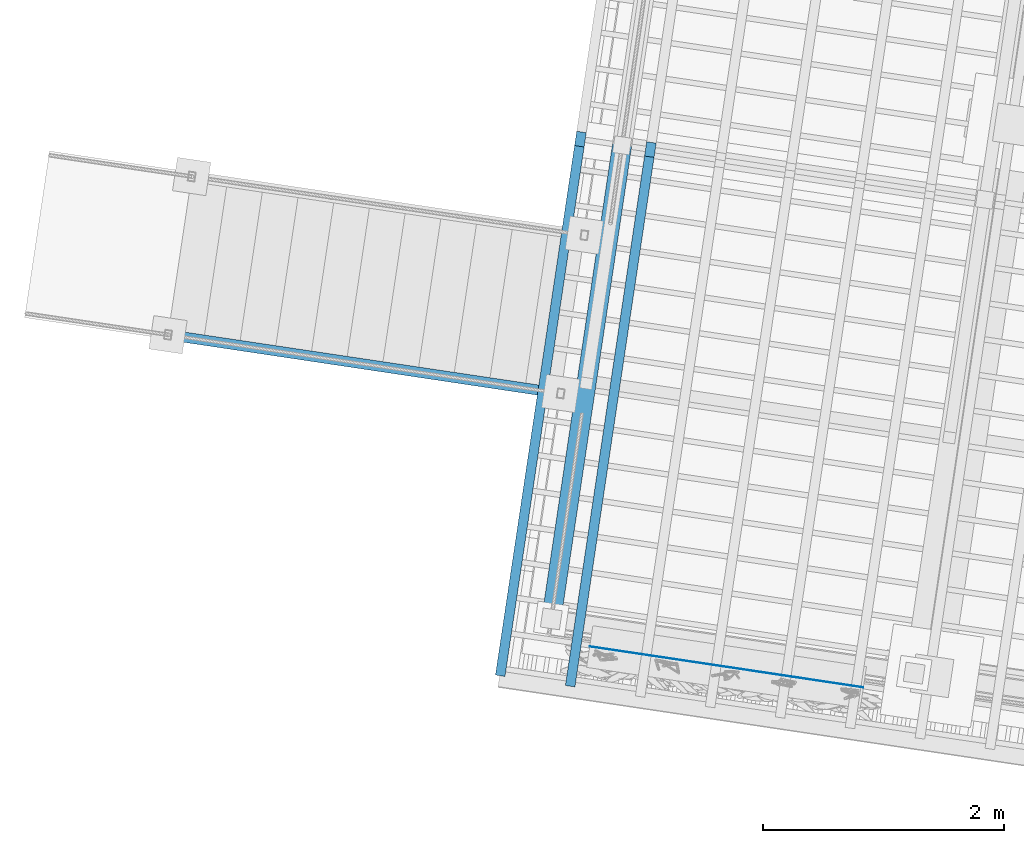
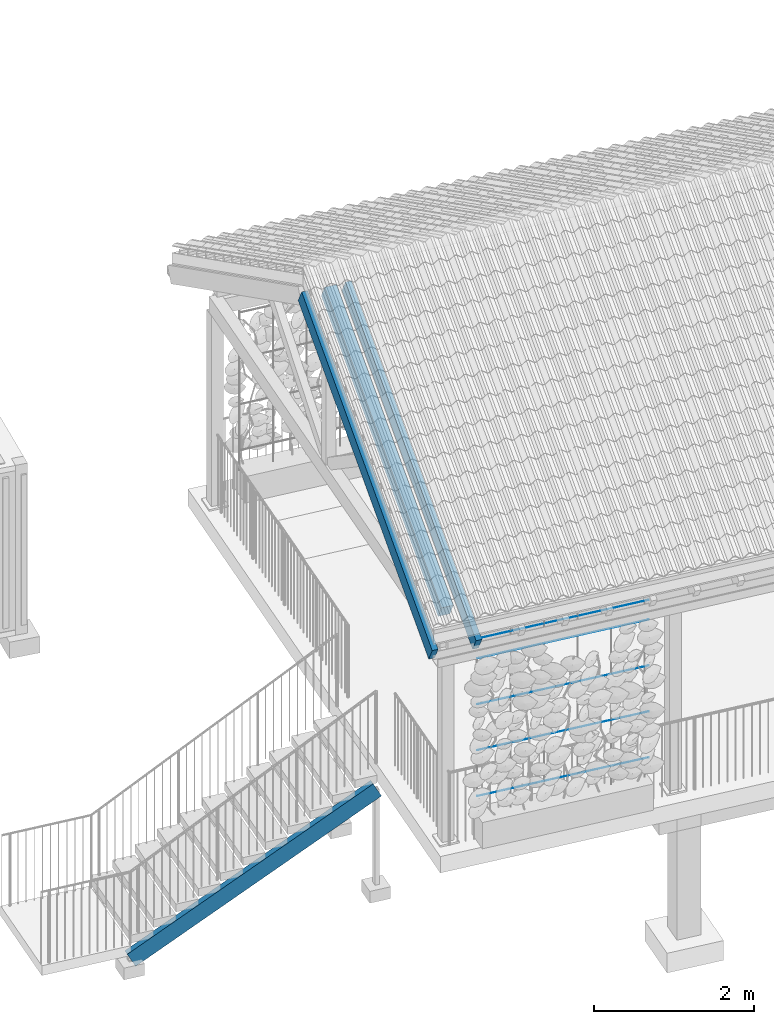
# One storey, part 9 of 131: 9 members, 3 elements without a shape of their own.
"""IFC4 building model written with IfcOpenShell, lengths in metres."""

from ifc_helpers import new_model, si_unit, direction, frame, origin_with_axes, place, context, subcontext, project, spatial, polyline, rectangle, circle, outline, extrude, material, material_profile, profile_set, profile_usage, type_object, element, aggregate, save


model = new_model("IFC4")

# Units and contexts
model_context = context("Model", 3, precision=1e-05, world=origin_with_axes(), true_north=direction((0.0, 1.0)))
body_context = subcontext(model_context, "Body", "Model", "MODEL_VIEW")
ifc_project = project(units=[si_unit("VOLUMEUNIT", "CUBIC_METRE"), si_unit("LENGTHUNIT", "METRE"), si_unit("AREAUNIT", "SQUARE_METRE")], contexts=[model_context])

# Site, building, storey
site_placement = place(None, origin_with_axes())
site = spatial("IfcSite", under=ifc_project, at=site_placement, Name="Lares · Rua das Mercês · artigo 4771")
building_placement = place(site_placement, frame((15.0, 9.7, 14.65), z_axis=(0.0, 0.0, 1.0), x_axis=(0.989015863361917, -0.147809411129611, 0.0)))
building = spatial("IfcBuilding", under=site, at=building_placement, Name="Casa Sobreposta")
storey_placement = place(building_placement, origin_with_axes())
storey = spatial("IfcBuildingStorey", under=building, at=storey_placement, Name="00 · Habitação e estacionamento", Elevation=14.65)

# Roof, members
ifc_material_1 = material(Name="Madeira / Bauholz", Category="wood")
roof_placement = place(storey_placement, origin_with_axes())
roof = element("IfcRoof", 1, at=roof_placement, inside=storey, material=ifc_material_1, Name="Cobertura de telha · duas águas 30 graus", PredefinedType="GABLE_ROOF")
ifc_material_profile_1 = material_profile(ifc_material_1, rectangle(XDim=0.16, YDim=0.24))
ifc_profile_set_1 = profile_set([ifc_material_profile_1], Name="TIMBER0.160x0.240")
ifc_profile_usage_1 = profile_usage(ifc_profile_set_1)
member_type_1 = type_object("IfcMemberType", Name="TIMBER0.160x0.240 / timber", PredefinedType="NOTDEFINED", material=ifc_profile_set_1)
member_1_placement = place(roof_placement, frame((-6.05, -1.43, 3.44635462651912), z_axis=(0.0, 0.866025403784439, 0.5), x_axis=(1.0, 0.0, 0.0)))
member_1 = element("IfcMember", 2, at=member_1_placement, type_object=member_type_1, material=ifc_profile_usage_1, Name="Tesoura · perna", context=body_context, shape_type="SweptSolid", body=[
    extrude(rectangle(XDim=0.16, YDim=0.24), origin_with_axes(), (0.0, 0.0, 1.0), 4.59570814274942),
])
ifc_material_profile_2 = material_profile(ifc_material_1, rectangle(XDim=0.08, YDim=0.24))
ifc_profile_set_2 = profile_set([ifc_material_profile_2], Name="TIMBER0.080x0.240")
ifc_profile_usage_2 = profile_usage(ifc_profile_set_2)
member_type_2 = type_object("IfcMemberType", Name="TIMBER0.080x0.240 / timber", PredefinedType="NOTDEFINED", material=ifc_profile_set_2)
member_2_placement = place(roof_placement, frame((-6.4, -1.9, 3.181), z_axis=(0.0, 0.866025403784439, 0.5), x_axis=(1.0, 0.0, 0.0)))
member_2 = element("IfcMember", 3, at=member_2_placement, type_object=member_type_2, material=ifc_profile_usage_2, Name="Cobertura · caibro", context=body_context, shape_type="SweptSolid", body=[
    extrude(rectangle(XDim=0.08, YDim=0.24), origin_with_axes(), (0.0, 0.0, 1.0), 5.13841739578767),
])
ifc_profile_usage_3 = profile_usage(ifc_profile_set_2)
member_3_placement = place(roof_placement, frame((-5.81212121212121, -1.9, 3.181), z_axis=(0.0, 0.866025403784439, 0.5), x_axis=(1.0, 0.0, 0.0)))
member_3 = element("IfcMember", 4, at=member_3_placement, type_object=member_type_2, material=ifc_profile_usage_3, Name="Cobertura · caibro", context=body_context, shape_type="SweptSolid", body=[
    extrude(rectangle(XDim=0.08, YDim=0.24), origin_with_axes(), (0.0, 0.0, 1.0), 5.13841739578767),
])
aggregate(roof, [member_1, member_2, member_3])

# Stair, member
stair_placement = place(storey_placement, origin_with_axes())
stair = element("IfcStair", 5, at=stair_placement, inside=storey, Name="Jardim · escada pela fachada poente", PredefinedType="STRAIGHT_RUN_STAIR")
ifc_material_2 = material(Name="Aço pintado / Stahl lackiert", Category="steel")
ifc_material_profile_3 = material_profile(ifc_material_2, outline(polyline([(-0.0425, -0.12), (0.0425, -0.12), (0.0425, -0.1102), (-0.0325, -0.1102), (-0.0325, 0.1102), (0.0425, 0.1102), (0.0425, 0.12), (-0.0425, 0.12), (-0.0425, -0.12)])))
ifc_profile_set_3 = profile_set([ifc_material_profile_3], Name="C240")
ifc_profile_usage_4 = profile_usage(ifc_profile_set_3)
member_type_3 = type_object("IfcMemberType", Name="C240 / steel", PredefinedType="NOTDEFINED", material=ifc_profile_set_3)
member_4_placement = place(stair_placement, frame((-6.25, 0.435, -0.419166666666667), z_axis=(-0.883369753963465, 0.0, -0.468676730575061), x_axis=(0.0, 1.0, 0.0)))
member_4 = element("IfcMember", 6, at=member_4_placement, type_object=member_type_3, material=ifc_profile_usage_4, Name="Jardim · longarina poente", context=body_context, shape_type="SweptSolid", body=[
    extrude(outline(polyline([(-0.0425, -0.12), (0.0425, -0.12), (0.0425, -0.1102), (-0.0325, -0.1102), (-0.0325, 0.1102), (0.0425, 0.1102), (0.0425, 0.12), (-0.0425, 0.12), (-0.0425, -0.12)])), origin_with_axes(), (0.0, 0.0, 1.0), 3.73569503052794),
])
aggregate(stair, [member_4])

# Assembly, members
assembly_placement = place(storey_placement, origin_with_axes())
assembly = element("IfcElementAssembly", 7, at=assembly_placement, inside=storey, Name="Fachada sul e pátio · estrutura e trepadeiras", ObjectType="LIVING_SHADE_TRELLIS", PredefinedType="USERDEFINED")
ifc_material_3 = material(Name="Aço galvanizado / Stahl verzinkt", Category="steel")
ifc_material_profile_4 = material_profile(ifc_material_3, circle(Radius=0.002))
ifc_profile_set_4 = profile_set([ifc_material_profile_4], Name="D0.004")
ifc_profile_usage_5 = profile_usage(ifc_profile_set_4)
member_type_4 = type_object("IfcMemberType", Name="D0.004 / galvanized", PredefinedType="NOTDEFINED", material=ifc_profile_set_4)
member_5_placement = place(assembly_placement, frame((-5.7, -1.61, 0.65), z_axis=(1.0, 0.0, 0.0), x_axis=(0.0, -1.0, 0.0)))
member_5 = element("IfcMember", 8, at=member_5_placement, type_object=member_type_4, material=ifc_profile_usage_5, Name="Trepadeiras · fio horizontal", context=body_context, shape_type="SweptSolid", body=[
    extrude(circle(Radius=0.002), origin_with_axes(), (0.0, 0.0, 1.0), 2.3),
])
ifc_profile_usage_6 = profile_usage(ifc_profile_set_4)
member_6_placement = place(assembly_placement, frame((-5.7, -1.61, 1.35), z_axis=(1.0, 0.0, 0.0), x_axis=(0.0, -1.0, 0.0)))
member_6 = element("IfcMember", 9, at=member_6_placement, type_object=member_type_4, material=ifc_profile_usage_6, Name="Trepadeiras · fio horizontal", context=body_context, shape_type="SweptSolid", body=[
    extrude(circle(Radius=0.002), origin_with_axes(), (0.0, 0.0, 1.0), 2.3),
])
ifc_profile_usage_7 = profile_usage(ifc_profile_set_4)
member_7_placement = place(assembly_placement, frame((-5.7, -1.61, 2.05), z_axis=(1.0, 0.0, 0.0), x_axis=(0.0, -1.0, 0.0)))
member_7 = element("IfcMember", 10, at=member_7_placement, type_object=member_type_4, material=ifc_profile_usage_7, Name="Trepadeiras · fio horizontal", context=body_context, shape_type="SweptSolid", body=[
    extrude(circle(Radius=0.002), origin_with_axes(), (0.0, 0.0, 1.0), 2.3),
])
ifc_profile_usage_8 = profile_usage(ifc_profile_set_4)
member_8_placement = place(assembly_placement, frame((-5.7, -1.61, 2.75), z_axis=(1.0, 0.0, 0.0), x_axis=(0.0, -1.0, 0.0)))
member_8 = element("IfcMember", 11, at=member_8_placement, type_object=member_type_4, material=ifc_profile_usage_8, Name="Trepadeiras · fio horizontal", context=body_context, shape_type="SweptSolid", body=[
    extrude(circle(Radius=0.002), origin_with_axes(), (0.0, 0.0, 1.0), 2.3),
])
ifc_profile_usage_9 = profile_usage(ifc_profile_set_4)
member_9_placement = place(assembly_placement, frame((-5.7, -1.61, 3.05), z_axis=(1.0, 0.0, 0.0), x_axis=(0.0, -1.0, 0.0)))
member_9 = element("IfcMember", 12, at=member_9_placement, type_object=member_type_4, material=ifc_profile_usage_9, Name="Trepadeiras · fio horizontal", context=body_context, shape_type="SweptSolid", body=[
    extrude(circle(Radius=0.002), origin_with_axes(), (0.0, 0.0, 1.0), 2.3),
])
aggregate(assembly, [member_5, member_6, member_7, member_8, member_9])

save(model, "model.ifc")
